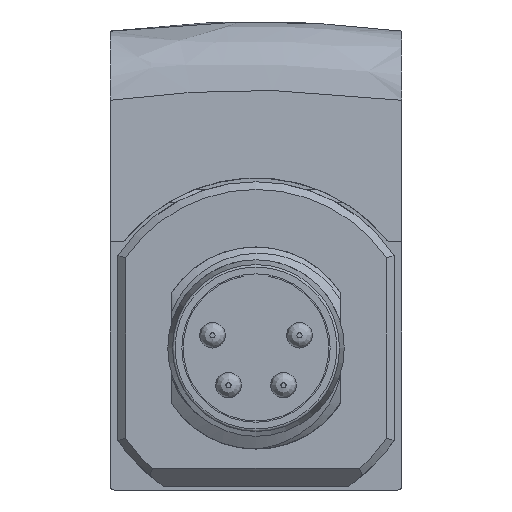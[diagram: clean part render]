
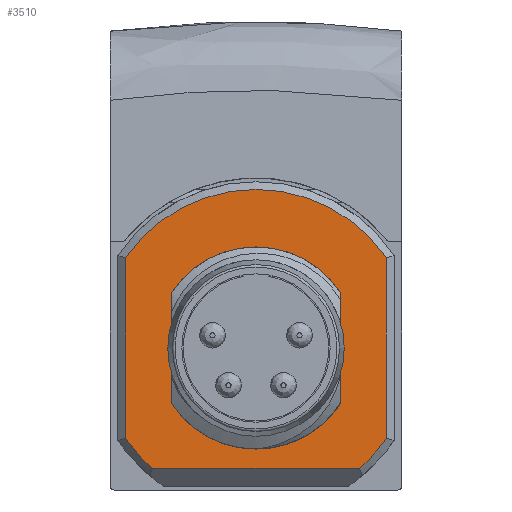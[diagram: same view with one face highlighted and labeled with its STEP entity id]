
A CAD part, front view. The second image highlights one B-rep face of the part: STEP entity #3510.
In plain terms, the highlighted planar face has unit normal (0, -1, 0).
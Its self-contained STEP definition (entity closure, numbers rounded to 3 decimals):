
#2523=CIRCLE('',#11227,3.39);
#2525=CIRCLE('',#11230,3.39);
#2536=CIRCLE('',#11263,6.2);
#2537=CIRCLE('',#11264,6.2);
#2538=CIRCLE('',#11265,6.2);
#3510=ADVANCED_FACE('4-0-129',(#3816,#3817),#3719,.T.);
#3719=PLANE('',#11266);
#3816=FACE_BOUND('',#4365,.T.);
#3817=FACE_BOUND('',#4366,.T.);
#4365=EDGE_LOOP('',(#6929,#6930,#6931,#6932,#6933,#6934));
#4366=EDGE_LOOP('',(#6935,#6936,#6937,#6938));
#6929=ORIENTED_EDGE('',*,*,#9172,.T.);
#6930=ORIENTED_EDGE('',*,*,#9173,.T.);
#6931=ORIENTED_EDGE('',*,*,#9174,.T.);
#6932=ORIENTED_EDGE('',*,*,#9175,.T.);
#6933=ORIENTED_EDGE('',*,*,#9176,.T.);
#6934=ORIENTED_EDGE('',*,*,#9177,.T.);
#6935=ORIENTED_EDGE('',*,*,#9124,.F.);
#6936=ORIENTED_EDGE('',*,*,#9090,.F.);
#6937=ORIENTED_EDGE('',*,*,#9143,.T.);
#6938=ORIENTED_EDGE('',*,*,#9086,.F.);
#7817=VERTEX_POINT('',#22636);
#7818=VERTEX_POINT('',#22638);
#7820=VERTEX_POINT('',#22644);
#7822=VERTEX_POINT('',#22647);
#7871=VERTEX_POINT('',#25366);
#7872=VERTEX_POINT('',#25367);
#7873=VERTEX_POINT('',#25369);
#7874=VERTEX_POINT('',#25371);
#7875=VERTEX_POINT('',#25373);
#7876=VERTEX_POINT('',#25375);
#9086=EDGE_CURVE('',#7817,#7818,#2523,.T.);
#9090=EDGE_CURVE('',#7820,#7822,#2525,.T.);
#9124=EDGE_CURVE('',#7822,#7817,#9811,.T.);
#9143=EDGE_CURVE('',#7820,#7818,#9818,.T.);
#9172=EDGE_CURVE('',#7871,#7872,#9824,.T.);
#9173=EDGE_CURVE('',#7872,#7873,#2536,.T.);
#9174=EDGE_CURVE('',#7873,#7874,#9825,.T.);
#9175=EDGE_CURVE('',#7874,#7875,#2537,.T.);
#9176=EDGE_CURVE('',#7875,#7876,#9826,.T.);
#9177=EDGE_CURVE('',#7876,#7871,#2538,.T.);
#9811=LINE('',#22898,#10489);
#9818=LINE('',#22966,#10496);
#9824=LINE('',#25365,#10502);
#9825=LINE('',#25370,#10503);
#9826=LINE('',#25374,#10504);
#10489=VECTOR('',#13428,1.);
#10496=VECTOR('',#13437,1.);
#10502=VECTOR('',#13457,1.);
#10503=VECTOR('',#13460,1.);
#10504=VECTOR('',#13463,1.);
#11227=AXIS2_PLACEMENT_3D('',#22637,#13364,#13365);
#11230=AXIS2_PLACEMENT_3D('',#22646,#13372,#13373);
#11263=AXIS2_PLACEMENT_3D('',#25368,#13458,#13459);
#11264=AXIS2_PLACEMENT_3D('',#25372,#13461,#13462);
#11265=AXIS2_PLACEMENT_3D('',#25376,#13464,#13465);
#11266=AXIS2_PLACEMENT_3D('',#25377,#13466,#13467);
#13364=DIRECTION('',(0.,-1.,0.));
#13365=DIRECTION('',(0.,0.,1.));
#13372=DIRECTION('',(0.,-1.,0.));
#13373=DIRECTION('',(0.,0.,1.));
#13428=DIRECTION('',(0.,0.,-1.));
#13437=DIRECTION('',(0.,0.,-1.));
#13457=DIRECTION('',(0.,0.,-1.));
#13458=DIRECTION('',(0.,-1.,0.));
#13459=DIRECTION('',(-0.823,0.,-0.569));
#13460=DIRECTION('',(1.,0.,0.));
#13461=DIRECTION('',(0.,-1.,0.));
#13462=DIRECTION('',(0.652,0.,-0.758));
#13463=DIRECTION('',(0.,0.,1.));
#13464=DIRECTION('',(0.,-1.,0.));
#13465=DIRECTION('',(0.823,0.,0.569));
#13466=DIRECTION('',(0.,-1.,0.));
#13467=DIRECTION('',(-1.,0.,0.));
#22636=CARTESIAN_POINT('',(-3.3,-1.6,-13.626));
#22637=CARTESIAN_POINT('',(0.,-1.6,-12.85));
#22638=CARTESIAN_POINT('',(3.3,-1.6,-13.626));
#22644=CARTESIAN_POINT('',(3.3,-1.6,-12.074));
#22646=CARTESIAN_POINT('',(0.,-1.6,-12.85));
#22647=CARTESIAN_POINT('',(-3.3,-1.6,-12.074));
#22898=CARTESIAN_POINT('',(-3.3,-1.6,-5.35));
#22966=CARTESIAN_POINT('',(3.3,-1.6,-5.35));
#25365=CARTESIAN_POINT('',(-5.1,-1.6,-9.324));
#25366=CARTESIAN_POINT('',(-5.1,-1.6,-9.324));
#25367=CARTESIAN_POINT('',(-5.1,-1.6,-16.376));
#25368=CARTESIAN_POINT('',(0.,-1.6,-12.85));
#25369=CARTESIAN_POINT('',(-4.044,-1.6,-17.55));
#25370=CARTESIAN_POINT('',(-4.044,-1.6,-17.55));
#25371=CARTESIAN_POINT('',(4.044,-1.6,-17.55));
#25372=CARTESIAN_POINT('',(0.,-1.6,-12.85));
#25373=CARTESIAN_POINT('',(5.1,-1.6,-16.376));
#25374=CARTESIAN_POINT('',(5.1,-1.6,-16.376));
#25375=CARTESIAN_POINT('',(5.1,-1.6,-9.324));
#25376=CARTESIAN_POINT('',(0.,-1.6,-12.85));
#25377=CARTESIAN_POINT('',(-7.15,-1.6,-17.795));
